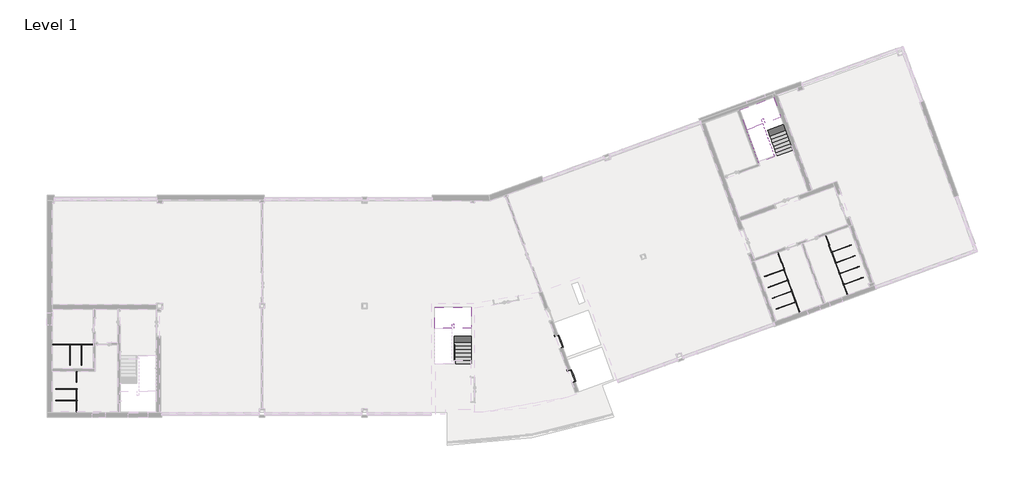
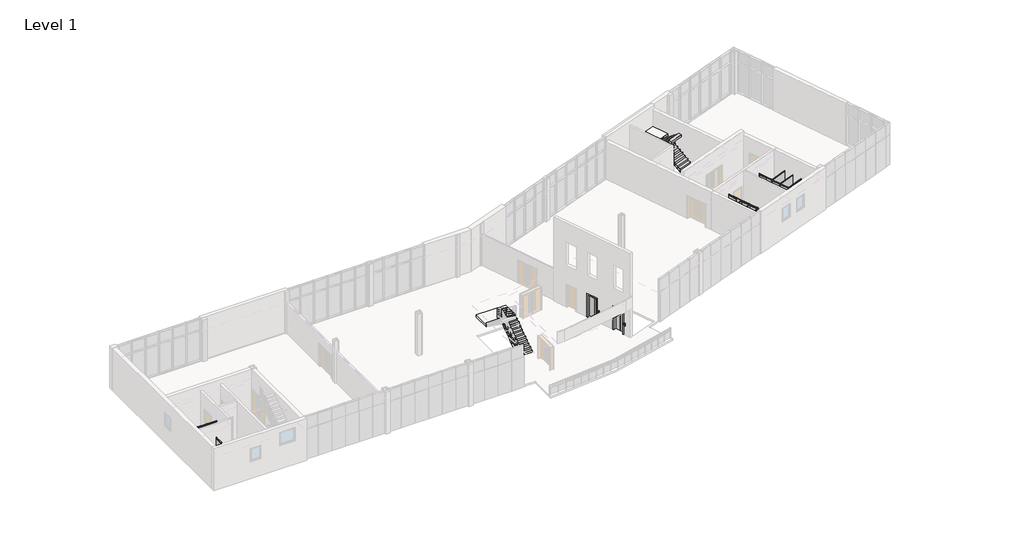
# One storey, part 12 of 12: 19 flow terminals, 3 stair flights, 2 proxies, 2 slabs.
"""IFC4 building model written with IfcOpenShell, lengths in millimetres."""

from ifc_helpers import new_model, si_unit, frame, origin, place, context, project, spatial, polyline, outline, extrude, faceted_brep, transform, mapped, element, save
from components import specialty_equipment_lift_assembly_13_person_wide_car_fb916a52, flow_terminal_2100mm_height_12b2e6eb, flow_terminal_2100mm_height_1f2eed72, flow_terminal_2100mm_height_0595ce71, flow_terminal_2100mm_height_2c32aa6e, flow_terminal_2100mm_height_6680c838, plumbing_fixtures_cubicle_corner_end_2100mm_height_8010d271, plumbing_fixtures_cubicle_corner_end_2100mm_height_71efdfa1

model = new_model("IFC4")

# Units and contexts
model_context = context("Model", 3, world=origin())
ifc_project = project(units=[si_unit("LENGTHUNIT", "METRE", prefix="MILLI")], contexts=[model_context])

# Site, building, storey
site = spatial("IfcSite", under=ifc_project)
building = spatial("IfcBuilding", under=site)
storey = spatial("IfcBuildingStorey", under=building, Name="Level 1", Elevation=3900.0)

# Proxies
placement = place(None, origin())
specialty_equipment_lift_assembly_13_person_wide_car_shape = specialty_equipment_lift_assembly_13_person_wide_car_fb916a52(model_context)
element("IfcBuildingElementProxy", 1, Name="Specialty_Equipment_Lift_Assembly : 13_Person-Wide_Car", ObjectType="Specialty_Equipment_Lift_Assembly : 13_Person-Wide_Car", at=placement, inside=storey, context=model_context, shape_type="MappedRepresentation", body=[
    mapped(specialty_equipment_lift_assembly_13_person_wide_car_shape, transform((36402.6729076, 5528.4769866, 3900.0), x_axis=(-0.34202014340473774, 0.9396926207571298, 0.0), y_axis=(-0.9396926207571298, -0.34202014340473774, 0.0), z_axis=(0.0, 0.0, 1.0))),
])
element("IfcBuildingElementProxy", 2, Name="Specialty_Equipment_Lift_Assembly : 13_Person-Wide_Car", ObjectType="Specialty_Equipment_Lift_Assembly : 13_Person-Wide_Car", at=placement, inside=storey, context=model_context, shape_type="MappedRepresentation", body=[
    mapped(specialty_equipment_lift_assembly_13_person_wide_car_shape, transform((37291.5468029, 3086.3160311, 3900.0), x_axis=(-0.34202014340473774, 0.9396926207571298, 0.0), y_axis=(-0.9396926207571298, -0.34202014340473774, 0.0), z_axis=(0.0, 0.0, 1.0))),
])

# Flow terminals
flow_terminal_2100mm_height_shape = flow_terminal_2100mm_height_12b2e6eb(model_context)
element("IfcFlowTerminal", 3, ObjectType="Plumbing_Fixtures_Toilet_Cubicle_End_Adjacent_Wall : 2100mm_Height", at=placement, inside=storey, context=model_context, shape_type="MappedRepresentation", body=[
    mapped(flow_terminal_2100mm_height_shape, transform((50541.393351, 10685.9180507, 3900.0), x_axis=(-0.3420201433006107, 0.9396926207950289, 0.0), y_axis=(-0.9396926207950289, -0.3420201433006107, 0.0), z_axis=(0.0, 0.0, 1.0))),
])
element("IfcFlowTerminal", 4, ObjectType="Plumbing_Fixtures_Toilet_Cubicle_End_Adjacent_Wall : 2100mm_Height", at=placement, inside=storey, context=model_context, shape_type="MappedRepresentation", body=[
    mapped(flow_terminal_2100mm_height_shape, transform((383.0, 2814.5689301, 3900.0), x_axis=(2.5442148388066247e-11, 1.0, 0.0), y_axis=(-1.0, 2.5442148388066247e-11, 0.0), z_axis=(0.0, 0.0, 1.0))),
])
element("IfcFlowTerminal", 5, ObjectType="Plumbing_Fixtures_Toilet_Cubicle_End_Adjacent_Wall : 2100mm_Height", at=placement, inside=storey, context=model_context, shape_type="MappedRepresentation", body=[
    mapped(flow_terminal_2100mm_height_shape, transform((830.9310712, 3326.5000005, 3900.0), x_axis=(-1.0, 2.5443536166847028e-11, 0.0), y_axis=(-2.5443536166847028e-11, -1.0, 0.0), z_axis=(0.0, 0.0, 1.0))),
])
flow_terminal_2100mm_height_2_shape = flow_terminal_2100mm_height_1f2eed72(model_context)
element("IfcFlowTerminal", 6, ObjectType="Plumbing_Fixtures_Toile_Cubicle_Extension_Panel : 2100mm_Height", at=placement, inside=storey, context=model_context, shape_type="MappedRepresentation", body=[
    mapped(flow_terminal_2100mm_height_2_shape, transform((50976.9218015, 9489.3134675, 3900.0), x_axis=(-0.34202014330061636, 0.9396926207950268, 0.0), y_axis=(-0.9396926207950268, -0.34202014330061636, 0.0), z_axis=(0.0, 0.0, 1.0))),
])
flow_terminal_2100mm_height_3_shape = flow_terminal_2100mm_height_0595ce71(model_context)
element("IfcFlowTerminal", 7, ObjectType="Plumbing_Fixtures_Toile_Cubicle_Extension_Panel : 2100mm_Height", at=placement, inside=storey, context=model_context, shape_type="MappedRepresentation", body=[
    mapped(flow_terminal_2100mm_height_3_shape, transform((57719.2163556, 11943.3079956, 3900.0), x_axis=(-0.3420201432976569, 0.9396926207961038, 0.0), y_axis=(-0.9396926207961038, -0.3420201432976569, 0.0), z_axis=(0.0, 0.0, 1.0))),
])
flow_terminal_2100mm_height_4_shape = flow_terminal_2100mm_height_2c32aa6e(model_context)
element("IfcFlowTerminal", 8, ObjectType="Plumbing_Fixtures_Toilet_Cubicle_End_Adjacent_Wall : 2100mm_Height", at=placement, inside=storey, context=model_context, shape_type="MappedRepresentation", body=[
    mapped(flow_terminal_2100mm_height_4_shape, transform((57283.6879051, 13139.9125789, 3900.0), x_axis=(-0.3420201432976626, 0.9396926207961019, 0.0), y_axis=(-0.9396926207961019, -0.3420201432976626, 0.0), z_axis=(0.0, 0.0, 1.0))),
])
flow_terminal_2100mm_height_5_shape = flow_terminal_2100mm_height_6680c838(model_context)
element("IfcFlowTerminal", 9, ObjectType="Plumbing_Fixtures_Toile_Cubicle_Extension_Panel : 2100mm_Height", at=placement, inside=storey, context=model_context, shape_type="MappedRepresentation", body=[
    mapped(flow_terminal_2100mm_height_5_shape, transform((2080.4310713, 3326.5000005, 3900.0), x_axis=(-1.0, 0.0, 0.0), y_axis=(0.0, -1.0, 0.0), z_axis=(0.0, 0.0, 1.0))),
])
plumbing_fixtures_cubicle_corner_end_2100mm_height_shape = plumbing_fixtures_cubicle_corner_end_2100mm_height_8010d271(model_context)
element("IfcFlowTerminal", 10, ObjectType="Plumbing_Fixtures_Cubicle_Corner_End : 2100mm_Height", at=placement, inside=storey, context=model_context, shape_type="MappedRepresentation", body=[
    mapped(plumbing_fixtures_cubicle_corner_end_2100mm_height_shape, transform((58572.2617435, 9599.5850544, 3900.0), x_axis=(0.3420201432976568, -0.9396926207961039, 0.0), y_axis=(0.9396926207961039, 0.3420201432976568, 0.0), z_axis=(0.0, 0.0, 1.0))),
])
element("IfcFlowTerminal", 11, ObjectType="Plumbing_Fixtures_Cubicle_Corner_End : 2100mm_Height", at=placement, inside=storey, context=model_context, shape_type="MappedRepresentation", body=[
    mapped(plumbing_fixtures_cubicle_corner_end_2100mm_height_shape, transform((58291.805226, 10370.1330034, 3900.0), x_axis=(0.3420201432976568, -0.9396926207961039, 0.0), y_axis=(0.9396926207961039, 0.3420201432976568, 0.0), z_axis=(0.0, 0.0, 1.0))),
])
element("IfcFlowTerminal", 12, ObjectType="Plumbing_Fixtures_Cubicle_Corner_End : 2100mm_Height", at=placement, inside=storey, context=model_context, shape_type="MappedRepresentation", body=[
    mapped(plumbing_fixtures_cubicle_corner_end_2100mm_height_shape, transform((58011.3487085, 11140.6809525, 3900.0), x_axis=(0.3420201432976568, -0.9396926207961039, 0.0), y_axis=(0.9396926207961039, 0.3420201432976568, 0.0), z_axis=(0.0, 0.0, 1.0))),
])
element("IfcFlowTerminal", 13, ObjectType="Plumbing_Fixtures_Cubicle_Corner_End : 2100mm_Height", at=placement, inside=storey, context=model_context, shape_type="MappedRepresentation", body=[
    mapped(plumbing_fixtures_cubicle_corner_end_2100mm_height_shape, transform((57730.892191, 11911.2289015, 3900.0), x_axis=(0.3420201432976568, -0.9396926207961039, 0.0), y_axis=(0.9396926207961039, 0.3420201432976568, 0.0), z_axis=(0.0, 0.0, 1.0))),
])
plumbing_fixtures_cubicle_corner_end_2100mm_height_2_shape = plumbing_fixtures_cubicle_corner_end_2100mm_height_71efdfa1(model_context)
element("IfcFlowTerminal", 14, ObjectType="Plumbing_Fixtures_Cubicle_Corner_End : 2100mm_Height", at=placement, inside=storey, context=model_context, shape_type="MappedRepresentation", body=[
    mapped(plumbing_fixtures_cubicle_corner_end_2100mm_height_2_shape, transform((51829.9671894, 7145.5905262, 3900.0), x_axis=(0.3420201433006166, -0.9396926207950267, 0.0), y_axis=(0.9396926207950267, 0.3420201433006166, 0.0), z_axis=(0.0, 0.0, 1.0))),
])
element("IfcFlowTerminal", 15, ObjectType="Plumbing_Fixtures_Cubicle_Corner_End : 2100mm_Height", at=placement, inside=storey, context=model_context, shape_type="MappedRepresentation", body=[
    mapped(plumbing_fixtures_cubicle_corner_end_2100mm_height_2_shape, transform((51549.5106719, 7916.1384753, 3900.0), x_axis=(0.3420201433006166, -0.9396926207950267, 0.0), y_axis=(0.9396926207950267, 0.3420201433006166, 0.0), z_axis=(0.0, 0.0, 1.0))),
])
element("IfcFlowTerminal", 16, ObjectType="Plumbing_Fixtures_Cubicle_Corner_End : 2100mm_Height", at=placement, inside=storey, context=model_context, shape_type="MappedRepresentation", body=[
    mapped(plumbing_fixtures_cubicle_corner_end_2100mm_height_2_shape, transform((51269.0541544, 8686.6864243, 3900.0), x_axis=(0.3420201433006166, -0.9396926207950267, 0.0), y_axis=(0.9396926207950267, 0.3420201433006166, 0.0), z_axis=(0.0, 0.0, 1.0))),
])
element("IfcFlowTerminal", 17, ObjectType="Plumbing_Fixtures_Cubicle_Corner_End : 2100mm_Height", at=placement, inside=storey, context=model_context, shape_type="MappedRepresentation", body=[
    mapped(plumbing_fixtures_cubicle_corner_end_2100mm_height_2_shape, transform((50988.5976369, 9457.2343734, 3900.0), x_axis=(0.3420201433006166, -0.9396926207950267, 0.0), y_axis=(0.9396926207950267, 0.3420201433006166, 0.0), z_axis=(0.0, 0.0, 1.0))),
])
element("IfcFlowTerminal", 18, ObjectType="Plumbing_Fixtures_Cubicle_Corner_End : 2100mm_Height", at=placement, inside=storey, context=model_context, shape_type="MappedRepresentation", body=[
    mapped(plumbing_fixtures_cubicle_corner_end_2100mm_height_2_shape, transform((383.0, 710.9310711, 3900.0), x_axis=(-2.5442148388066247e-11, -1.0, 0.0), y_axis=(1.0, -2.5442148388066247e-11, 0.0), z_axis=(0.0, 0.0, 1.0))),
])
element("IfcFlowTerminal", 19, ObjectType="Plumbing_Fixtures_Cubicle_Corner_End : 2100mm_Height", at=placement, inside=storey, context=model_context, shape_type="MappedRepresentation", body=[
    mapped(plumbing_fixtures_cubicle_corner_end_2100mm_height_2_shape, transform((383.0, 1530.9310711, 3900.0), x_axis=(-2.5442148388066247e-11, -1.0, 0.0), y_axis=(1.0, -2.5442148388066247e-11, 0.0), z_axis=(0.0, 0.0, 1.0))),
])
element("IfcFlowTerminal", 20, ObjectType="Plumbing_Fixtures_Cubicle_Corner_End : 2100mm_Height", at=placement, inside=storey, context=model_context, shape_type="MappedRepresentation", body=[
    mapped(plumbing_fixtures_cubicle_corner_end_2100mm_height_2_shape, transform((2934.5689301, 3326.5000005, 3900.0), x_axis=(1.0, -2.5443536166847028e-11, 0.0), y_axis=(2.5443536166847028e-11, 1.0, 0.0), z_axis=(0.0, 0.0, 1.0))),
])
element("IfcFlowTerminal", 21, ObjectType="Plumbing_Fixtures_Cubicle_Corner_End : 2100mm_Height", at=placement, inside=storey, context=model_context, shape_type="MappedRepresentation", body=[
    mapped(plumbing_fixtures_cubicle_corner_end_2100mm_height_2_shape, transform((2114.5689301, 3326.5000005, 3900.0), x_axis=(1.0, -2.5443536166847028e-11, 0.0), y_axis=(2.5443536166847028e-11, 1.0, 0.0), z_axis=(0.0, 0.0, 1.0))),
])

# Slabs
element("IfcSlab", 22, ObjectType="8\"_Thickness", at=placement, inside=storey, context=model_context, shape_type="SolidModel", body=[
    faceted_brep([(29052.2000029, 6263.2000006, 5849.0), (30252.200003, 6263.2000006, 5849.0), (30252.200003, 6490.4719159, 5849.0), (30252.200003, 7763.2000004, 5849.0), (27662.2000031, 7763.2000004, 5849.0), (27662.2000031, 6285.9280852, 5849.0), (27662.2000031, 6263.2000006, 5849.0), (28862.2000029, 6263.2000006, 5849.0), (28862.2000029, 6285.9280852, 5849.0), (28862.2000029, 6563.2000006, 5849.0), (29052.2000029, 6563.2000006, 5849.0), (29052.2000029, 6490.4719159, 5849.0), (29052.2000029, 6263.2000006, 5487.8435509), (29052.2000029, 6263.2000006, 5671.7272727), (29052.2000029, 6563.2000006, 5649.0), (29052.2000029, 6490.4719159, 5649.0), (30252.200003, 6263.2000006, 5671.7272727), (30252.200003, 6263.2000006, 5487.8435509), (30252.200003, 6490.4719159, 5649.0), (30252.200003, 7763.2000004, 5649.0), (28862.2000029, 6263.2000006, 5665.1162782), (28862.2000029, 6285.9280852, 5649.0), (28862.2000029, 6563.2000006, 5649.0), (27662.2000031, 6285.9280852, 5649.0), (27662.2000031, 7763.2000004, 5649.0), (27662.2000031, 6263.2000006, 5665.1162782)], [[[0, 1, 2, 3, 4, 5, 6, 7, 8, 9, 10, 11]], [[12, 13, 0, 11, 10, 14, 15]], [[1, 16, 17, 18, 19, 3, 2]], [[7, 20, 21, 22, 9, 8]], [[18, 15, 14, 22, 21, 23, 24, 19]], [[15, 18, 17, 12]], [[23, 21, 20, 25]], [[1, 0, 13, 12, 17, 16]], [[4, 3, 19, 24]], [[4, 24, 23, 25, 6, 5]], [[7, 6, 25, 20]], [[10, 9, 22, 14]]]),
    extrude(outline(polyline([(29052.2000029, 6263.2000006), (29052.2000029, 6563.2000006), (28862.2000029, 6563.2000006), (28862.2000029, 6263.2000006), (27662.2000031, 6263.2000006), (27662.2000031, 7763.2000004), (30252.200003, 7763.2000004), (30252.200003, 6263.2000006), (29052.2000029, 6263.2000006)])), frame((0.0, 0.0, 5849.0), z_axis=(0.0, 0.0, 1.0), x_axis=(1.0, 0.0, 0.0)), (0.0, 0.0, 1.0), 1.0),
])
element("IfcSlab", 23, ObjectType="8\"_Thickness", at=placement, inside=storey, context=model_context, shape_type="SolidModel", body=[
    faceted_brep([(51174.021156, 20890.1085605, 5849.0), (52301.652301, 21300.5327324, 5849.0), (52223.920728, 21514.0984742, 5849.0), (51788.6220861, 22710.0716635, 5849.0), (49354.8181983, 21824.2394924, 5849.0), (49860.0749505, 20436.0579748, 5849.0), (49867.8484132, 20414.7005613, 5849.0), (50995.479558, 20825.1247332, 5849.0), (50987.7060952, 20846.4821467, 5849.0), (50892.873515, 21107.0325195, 5849.0), (51071.415113, 21172.0163467, 5849.0), (51096.2895829, 21103.6743022, 5849.0), (51174.021156, 20890.1085605, 5487.8435509), (51174.021156, 20890.1085605, 5671.7272727), (51071.415113, 21172.0163467, 5649.0), (51096.2895829, 21103.6743022, 5649.0), (52301.652301, 21300.5327324, 5671.7272727), (52301.652301, 21300.5327324, 5487.8435509), (52223.920728, 21514.0984742, 5649.0), (51788.6220861, 22710.0716635, 5649.0), (50995.479558, 20825.1247332, 5665.1162782), (50987.7060952, 20846.4821467, 5649.0), (50892.873515, 21107.0325195, 5649.0), (49860.0749505, 20436.0579748, 5649.0), (49354.8181983, 21824.2394924, 5649.0), (49867.8484132, 20414.7005613, 5665.1162782)], [[[0, 1, 2, 3, 4, 5, 6, 7, 8, 9, 10, 11]], [[12, 13, 0, 11, 10, 14, 15]], [[1, 16, 17, 18, 19, 3, 2]], [[7, 20, 21, 22, 9, 8]], [[18, 15, 14, 22, 21, 23, 24, 19]], [[15, 18, 17, 12]], [[23, 21, 20, 25]], [[1, 0, 13, 12, 17, 16]], [[4, 3, 19, 24]], [[4, 24, 23, 25, 6, 5]], [[7, 6, 25, 20]], [[10, 9, 22, 14]]]),
    extrude(outline(polyline([(51174.021156, 20890.1085605), (51071.415113, 21172.0163467), (50892.873515, 21107.0325195), (50995.479558, 20825.1247332), (49867.8484132, 20414.7005613), (49354.8181983, 21824.2394924), (51788.6220861, 22710.0716635), (52301.652301, 21300.5327324), (51174.021156, 20890.1085605)])), frame((0.0, 0.0, 5849.0), z_axis=(0.0, 0.0, 1.0), x_axis=(1.0, 0.0, 0.0)), (0.0, 0.0, 1.0), 1.0),
])

# Stair flights
element("IfcStairFlight", 24, ObjectType="1/16\"_Tread-6\"_Depth", at=placement, inside=storey, context=model_context, shape_type="SolidModel", body=[
    faceted_brep([(29052.2000029, 4013.2000006, 4076.2727273), (29052.2000029, 3763.2000006, 4076.2727273), (30252.200003, 3763.2000006, 4076.2727273), (30252.200003, 4013.2000006, 4076.2727273), (29052.2000029, 4013.2000006, 3900.0), (29052.2000029, 3763.2000006, 3900.0), (30252.200003, 3763.2000006, 3900.0), (30252.200003, 4013.2000006, 3900.0), (29052.2000029, 4263.2000006, 4253.5454545), (29052.2000029, 4013.2000006, 4253.5454545), (30252.200003, 4013.2000006, 4253.5454545), (30252.200003, 4263.2000006, 4253.5454545), (29052.2000029, 4263.2000006, 4069.6617328), (29052.2000029, 4023.9334544, 3900.0), (30252.200003, 4023.9334544, 3900.0), (30252.200003, 4263.2000006, 4069.6617328), (29052.2000029, 4513.2000006, 4430.8181818), (29052.2000029, 4263.2000006, 4430.8181818), (30252.200003, 4263.2000006, 4430.8181818), (30252.200003, 4513.2000006, 4430.8181818), (29052.2000029, 4513.2000006, 4246.93446), (30252.200003, 4513.2000006, 4246.93446), (29052.2000029, 4763.2000006, 4608.0909091), (29052.2000029, 4513.2000006, 4608.0909091), (30252.200003, 4513.2000006, 4608.0909091), (30252.200003, 4763.2000006, 4608.0909091), (29052.2000029, 4763.2000006, 4424.2071873), (30252.200003, 4763.2000006, 4424.2071873), (29052.2000029, 5013.2000006, 4785.3636364), (29052.2000029, 4763.2000006, 4785.3636364), (30252.200003, 4763.2000006, 4785.3636364), (30252.200003, 5013.2000006, 4785.3636364), (29052.2000029, 5013.2000006, 4601.4799146), (30252.200003, 5013.2000006, 4601.4799146), (29052.2000029, 5263.2000006, 4962.6363636), (29052.2000029, 5013.2000006, 4962.6363636), (30252.200003, 5013.2000006, 4962.6363636), (30252.200003, 5263.2000006, 4962.6363636), (29052.2000029, 5263.2000006, 4778.7526418), (30252.200003, 5263.2000006, 4778.7526418), (29052.2000029, 5513.2000006, 5139.9090909), (29052.2000029, 5263.2000006, 5139.9090909), (30252.200003, 5263.2000006, 5139.9090909), (30252.200003, 5513.2000006, 5139.9090909), (29052.2000029, 5513.2000006, 4956.0253691), (30252.200003, 5513.2000006, 4956.0253691), (29052.2000029, 5763.2000006, 5317.1818182), (29052.2000029, 5513.2000006, 5317.1818182), (30252.200003, 5513.2000006, 5317.1818182), (30252.200003, 5763.2000006, 5317.1818182), (29052.2000029, 5763.2000006, 5133.2980964), (30252.200003, 5763.2000006, 5133.2980964), (29052.2000029, 6013.2000006, 5494.4545455), (29052.2000029, 5763.2000006, 5494.4545455), (30252.200003, 5763.2000006, 5494.4545455), (30252.200003, 6013.2000006, 5494.4545455), (29052.2000029, 6013.2000006, 5310.5708237), (30252.200003, 6013.2000006, 5310.5708237), (29052.2000029, 6263.2000006, 5487.8435509), (30252.200003, 6263.2000006, 5487.8435509), (29052.2000029, 6263.2000006, 5671.7272727), (29052.2000029, 6013.2000006, 5671.7272727), (30252.200003, 6013.2000006, 5671.7272727), (30252.200003, 6263.2000006, 5671.7272727)], [[[0, 1, 2, 3]], [[1, 0, 4, 5]], [[2, 1, 5, 6]], [[3, 2, 6, 7]], [[8, 9, 10, 11]], [[4, 0, 9, 8, 12, 13]], [[0, 3, 10, 9]], [[3, 7, 14, 15, 11, 10]], [[16, 17, 18, 19]], [[17, 16, 20, 12, 8]], [[8, 11, 18, 17]], [[19, 18, 11, 15, 21]], [[22, 23, 24, 25]], [[23, 22, 26, 20, 16]], [[16, 19, 24, 23]], [[25, 24, 19, 21, 27]], [[28, 29, 30, 31]], [[29, 28, 32, 26, 22]], [[22, 25, 30, 29]], [[31, 30, 25, 27, 33]], [[34, 35, 36, 37]], [[35, 34, 38, 32, 28]], [[28, 31, 36, 35]], [[37, 36, 31, 33, 39]], [[40, 41, 42, 43]], [[41, 40, 44, 38, 34]], [[34, 37, 42, 41]], [[43, 42, 37, 39, 45]], [[46, 47, 48, 49]], [[47, 46, 50, 44, 40]], [[40, 43, 48, 47]], [[49, 48, 43, 45, 51]], [[52, 53, 54, 55]], [[53, 52, 56, 50, 46]], [[46, 49, 54, 53]], [[55, 54, 49, 51, 57]], [[5, 4, 13, 14, 7, 6]], [[14, 13, 12, 20, 26, 32, 38, 44, 50, 56, 58, 59, 57, 51, 45, 39, 33, 27, 21, 15]], [[60, 61, 62, 63]], [[61, 60, 58, 56, 52]], [[52, 55, 62, 61]], [[63, 62, 55, 57, 59]], [[60, 63, 59, 58]]]),
    extrude(outline(polyline([(29052.2000029, 4013.2000006), (30252.200003, 4013.2000006), (30252.200003, 3763.2000006), (29052.2000029, 3763.2000006), (29052.2000029, 4013.2000006)])), frame((0.0, 0.0, 4076.2727273), z_axis=(0.0, 0.0, 1.0), x_axis=(1.0, 0.0, 0.0)), (0.0, 0.0, 1.0), 1.0),
    extrude(outline(polyline([(29052.2000029, 4263.2000006), (30252.200003, 4263.2000006), (30252.200003, 4013.2000006), (29052.2000029, 4013.2000006), (29052.2000029, 4263.2000006)])), frame((0.0, 0.0, 4253.5454545), z_axis=(0.0, 0.0, 1.0), x_axis=(1.0, 0.0, 0.0)), (0.0, 0.0, 1.0), 1.0),
    extrude(outline(polyline([(29052.2000029, 4513.2000006), (30252.200003, 4513.2000006), (30252.200003, 4263.2000006), (29052.2000029, 4263.2000006), (29052.2000029, 4513.2000006)])), frame((0.0, 0.0, 4430.8181818), z_axis=(0.0, 0.0, 1.0), x_axis=(1.0, 0.0, 0.0)), (0.0, 0.0, 1.0), 1.0),
    extrude(outline(polyline([(29052.2000029, 4763.2000006), (30252.200003, 4763.2000006), (30252.200003, 4513.2000006), (29052.2000029, 4513.2000006), (29052.2000029, 4763.2000006)])), frame((0.0, 0.0, 4608.0909091), z_axis=(0.0, 0.0, 1.0), x_axis=(1.0, 0.0, 0.0)), (0.0, 0.0, 1.0), 1.0),
    extrude(outline(polyline([(29052.2000029, 5013.2000006), (30252.200003, 5013.2000006), (30252.200003, 4763.2000006), (29052.2000029, 4763.2000006), (29052.2000029, 5013.2000006)])), frame((0.0, 0.0, 4785.3636364), z_axis=(0.0, 0.0, 1.0), x_axis=(1.0, 0.0, 0.0)), (0.0, 0.0, 1.0), 1.0),
    extrude(outline(polyline([(29052.2000029, 5263.2000006), (30252.200003, 5263.2000006), (30252.200003, 5013.2000006), (29052.2000029, 5013.2000006), (29052.2000029, 5263.2000006)])), frame((0.0, 0.0, 4962.6363636), z_axis=(0.0, 0.0, 1.0), x_axis=(1.0, 0.0, 0.0)), (0.0, 0.0, 1.0), 1.0),
    extrude(outline(polyline([(29052.2000029, 5513.2000006), (30252.200003, 5513.2000006), (30252.200003, 5263.2000006), (29052.2000029, 5263.2000006), (29052.2000029, 5513.2000006)])), frame((0.0, 0.0, 5139.9090909), z_axis=(0.0, 0.0, 1.0), x_axis=(1.0, 0.0, 0.0)), (0.0, 0.0, 1.0), 1.0),
    extrude(outline(polyline([(29052.2000029, 5763.2000006), (30252.200003, 5763.2000006), (30252.200003, 5513.2000006), (29052.2000029, 5513.2000006), (29052.2000029, 5763.2000006)])), frame((0.0, 0.0, 5317.1818182), z_axis=(0.0, 0.0, 1.0), x_axis=(1.0, 0.0, 0.0)), (0.0, 0.0, 1.0), 1.0),
    extrude(outline(polyline([(29052.2000029, 6013.2000006), (30252.200003, 6013.2000006), (30252.200003, 5763.2000006), (29052.2000029, 5763.2000006), (29052.2000029, 6013.2000006)])), frame((0.0, 0.0, 5494.4545455), z_axis=(0.0, 0.0, 1.0), x_axis=(1.0, 0.0, 0.0)), (0.0, 0.0, 1.0), 1.0),
    extrude(outline(polyline([(29052.2000029, 6263.2000006), (30252.200003, 6263.2000006), (30252.200003, 6013.2000006), (29052.2000029, 6013.2000006), (29052.2000029, 6263.2000006)])), frame((0.0, 0.0, 5671.7272727), z_axis=(0.0, 0.0, 1.0), x_axis=(1.0, 0.0, 0.0)), (0.0, 0.0, 1.0), 1.0),
])
element("IfcStairFlight", 25, ObjectType="1/16\"_Tread-6\"_Depth", at=placement, inside=storey, context=model_context, shape_type="SolidModel", body=[
    faceted_brep([(51943.5664784, 18775.8001637, 4076.2727273), (52029.0715142, 18540.8770085, 4076.2727273), (53156.7026593, 18951.3011804, 4076.2727273), (53071.1976234, 19186.2243356, 4076.2727273), (51943.5664784, 18775.8001637, 3900.0), (52029.0715142, 18540.8770085, 3900.0), (53156.7026593, 18951.3011804, 3900.0), (53071.1976234, 19186.2243356, 3900.0), (51858.0614426, 19010.7233189, 4253.5454545), (51943.5664784, 18775.8001637, 4253.5454545), (53071.1976234, 19186.2243356, 4253.5454545), (52985.6925876, 19421.1474908, 4253.5454545), (51858.0614426, 19010.7233189, 4069.6617328), (51939.895421, 18785.886311, 3900.0), (53067.526566, 19196.310483, 3900.0), (52985.6925876, 19421.1474908, 4069.6617328), (51772.5564067, 19245.6464741, 4430.8181818), (51858.0614426, 19010.7233189, 4430.8181818), (52985.6925876, 19421.1474908, 4430.8181818), (52900.1875518, 19656.070646, 4430.8181818), (51772.5564067, 19245.6464741, 4246.93446), (52900.1875518, 19656.070646, 4246.93446), (51687.0513709, 19480.5696293, 4608.0909091), (51772.5564067, 19245.6464741, 4608.0909091), (52900.1875518, 19656.070646, 4608.0909091), (52814.682516, 19890.9938012, 4608.0909091), (51687.0513709, 19480.5696293, 4424.2071873), (52814.682516, 19890.9938012, 4424.2071873), (51601.5463351, 19715.4927845, 4785.3636364), (51687.0513709, 19480.5696293, 4785.3636364), (52814.682516, 19890.9938012, 4785.3636364), (52729.1774801, 20125.9169564, 4785.3636364), (51601.5463351, 19715.4927845, 4601.4799146), (52729.1774801, 20125.9169564, 4601.4799146), (51516.0412993, 19950.4159397, 4962.6363636), (51601.5463351, 19715.4927845, 4962.6363636), (52729.1774801, 20125.9169564, 4962.6363636), (52643.6724443, 20360.8401116, 4962.6363636), (51516.0412993, 19950.4159397, 4778.7526418), (52643.6724443, 20360.8401116, 4778.7526418), (51430.5362634, 20185.3390949, 5139.9090909), (51516.0412993, 19950.4159397, 5139.9090909), (52643.6724443, 20360.8401116, 5139.9090909), (52558.1674085, 20595.7632668, 5139.9090909), (51430.5362634, 20185.3390949, 4956.0253691), (52558.1674085, 20595.7632668, 4956.0253691), (51345.0312276, 20420.2622501, 5317.1818182), (51430.5362634, 20185.3390949, 5317.1818182), (52558.1674085, 20595.7632668, 5317.1818182), (52472.6623727, 20830.686422, 5317.1818182), (51345.0312276, 20420.2622501, 5133.2980964), (52472.6623727, 20830.686422, 5133.2980964), (51259.5261918, 20655.1854053, 5494.4545455), (51345.0312276, 20420.2622501, 5494.4545455), (52472.6623727, 20830.686422, 5494.4545455), (52387.1573368, 21065.6095772, 5494.4545455), (51259.5261918, 20655.1854053, 5310.5708237), (52387.1573368, 21065.6095772, 5310.5708237), (51174.021156, 20890.1085605, 5487.8435509), (52301.652301, 21300.5327324, 5487.8435509), (51174.021156, 20890.1085605, 5671.7272727), (51259.5261918, 20655.1854053, 5671.7272727), (52387.1573368, 21065.6095772, 5671.7272727), (52301.652301, 21300.5327324, 5671.7272727)], [[[0, 1, 2, 3]], [[1, 0, 4, 5]], [[2, 1, 5, 6]], [[3, 2, 6, 7]], [[8, 9, 10, 11]], [[4, 0, 9, 8, 12, 13]], [[0, 3, 10, 9]], [[3, 7, 14, 15, 11, 10]], [[16, 17, 18, 19]], [[17, 16, 20, 12, 8]], [[8, 11, 18, 17]], [[19, 18, 11, 15, 21]], [[22, 23, 24, 25]], [[23, 22, 26, 20, 16]], [[16, 19, 24, 23]], [[25, 24, 19, 21, 27]], [[28, 29, 30, 31]], [[29, 28, 32, 26, 22]], [[22, 25, 30, 29]], [[31, 30, 25, 27, 33]], [[34, 35, 36, 37]], [[35, 34, 38, 32, 28]], [[28, 31, 36, 35]], [[37, 36, 31, 33, 39]], [[40, 41, 42, 43]], [[41, 40, 44, 38, 34]], [[34, 37, 42, 41]], [[43, 42, 37, 39, 45]], [[46, 47, 48, 49]], [[47, 46, 50, 44, 40]], [[40, 43, 48, 47]], [[49, 48, 43, 45, 51]], [[52, 53, 54, 55]], [[53, 52, 56, 50, 46]], [[46, 49, 54, 53]], [[55, 54, 49, 51, 57]], [[5, 4, 13, 14, 7, 6]], [[14, 13, 12, 20, 26, 32, 38, 44, 50, 56, 58, 59, 57, 51, 45, 39, 33, 27, 21, 15]], [[60, 61, 62, 63]], [[61, 60, 58, 56, 52]], [[52, 55, 62, 61]], [[63, 62, 55, 57, 59]], [[60, 63, 59, 58]]]),
    extrude(outline(polyline([(51943.5664784, 18775.8001637), (53071.1976234, 19186.2243356), (53156.7026593, 18951.3011804), (52029.0715142, 18540.8770085), (51943.5664784, 18775.8001637)])), frame((0.0, 0.0, 4076.2727273), z_axis=(0.0, 0.0, 1.0), x_axis=(1.0, 0.0, 0.0)), (0.0, 0.0, 1.0), 1.0),
    extrude(outline(polyline([(51858.0614426, 19010.7233189), (52985.6925876, 19421.1474908), (53071.1976234, 19186.2243356), (51943.5664784, 18775.8001637), (51858.0614426, 19010.7233189)])), frame((0.0, 0.0, 4253.5454545), z_axis=(0.0, 0.0, 1.0), x_axis=(1.0, 0.0, 0.0)), (0.0, 0.0, 1.0), 1.0),
    extrude(outline(polyline([(51772.5564067, 19245.6464741), (52900.1875518, 19656.070646), (52985.6925876, 19421.1474908), (51858.0614426, 19010.7233189), (51772.5564067, 19245.6464741)])), frame((0.0, 0.0, 4430.8181818), z_axis=(0.0, 0.0, 1.0), x_axis=(1.0, 0.0, 0.0)), (0.0, 0.0, 1.0), 1.0),
    extrude(outline(polyline([(51687.0513709, 19480.5696293), (52814.682516, 19890.9938012), (52900.1875518, 19656.070646), (51772.5564067, 19245.6464741), (51687.0513709, 19480.5696293)])), frame((0.0, 0.0, 4608.0909091), z_axis=(0.0, 0.0, 1.0), x_axis=(1.0, 0.0, 0.0)), (0.0, 0.0, 1.0), 1.0),
    extrude(outline(polyline([(51601.5463351, 19715.4927845), (52729.1774801, 20125.9169564), (52814.682516, 19890.9938012), (51687.0513709, 19480.5696293), (51601.5463351, 19715.4927845)])), frame((0.0, 0.0, 4785.3636364), z_axis=(0.0, 0.0, 1.0), x_axis=(1.0, 0.0, 0.0)), (0.0, 0.0, 1.0), 1.0),
    extrude(outline(polyline([(51516.0412993, 19950.4159397), (52643.6724443, 20360.8401116), (52729.1774801, 20125.9169564), (51601.5463351, 19715.4927845), (51516.0412993, 19950.4159397)])), frame((0.0, 0.0, 4962.6363636), z_axis=(0.0, 0.0, 1.0), x_axis=(1.0, 0.0, 0.0)), (0.0, 0.0, 1.0), 1.0),
    extrude(outline(polyline([(51430.5362634, 20185.3390949), (52558.1674085, 20595.7632668), (52643.6724443, 20360.8401116), (51516.0412993, 19950.4159397), (51430.5362634, 20185.3390949)])), frame((0.0, 0.0, 5139.9090909), z_axis=(0.0, 0.0, 1.0), x_axis=(1.0, 0.0, 0.0)), (0.0, 0.0, 1.0), 1.0),
    extrude(outline(polyline([(51345.0312276, 20420.2622501), (52472.6623727, 20830.686422), (52558.1674085, 20595.7632668), (51430.5362634, 20185.3390949), (51345.0312276, 20420.2622501)])), frame((0.0, 0.0, 5317.1818182), z_axis=(0.0, 0.0, 1.0), x_axis=(1.0, 0.0, 0.0)), (0.0, 0.0, 1.0), 1.0),
    extrude(outline(polyline([(51259.5261918, 20655.1854053), (52387.1573368, 21065.6095772), (52472.6623727, 20830.686422), (51345.0312276, 20420.2622501), (51259.5261918, 20655.1854053)])), frame((0.0, 0.0, 5494.4545455), z_axis=(0.0, 0.0, 1.0), x_axis=(1.0, 0.0, 0.0)), (0.0, 0.0, 1.0), 1.0),
    extrude(outline(polyline([(51174.021156, 20890.1085605), (52301.652301, 21300.5327324), (52387.1573368, 21065.6095772), (51259.5261918, 20655.1854053), (51174.021156, 20890.1085605)])), frame((0.0, 0.0, 5671.7272727), z_axis=(0.0, 0.0, 1.0), x_axis=(1.0, 0.0, 0.0)), (0.0, 0.0, 1.0), 1.0),
])
element("IfcStairFlight", 26, ObjectType="1/16\"_Tread-6\"_Depth", at=placement, inside=storey, context=model_context, shape_type="SolidModel", body=[
    faceted_brep([(51080.9845938, 20590.201578, 6026.2727273), (50995.479558, 20825.1247332, 6026.2727273), (49867.8484132, 20414.7005613, 6026.2727273), (49953.3534491, 20179.7774061, 6026.2727273), (51080.9845938, 20590.201578, 5842.3890055), (50995.479558, 20825.1247332, 5665.1162782), (50995.479558, 20825.1247332, 5849.0), (49867.8484132, 20414.7005613, 5665.1162782), (49867.8484132, 20414.7005613, 5849.0), (49953.3534491, 20179.7774061, 5842.3890055), (51166.4896296, 20355.2784228, 6203.5454545), (51080.9845938, 20590.201578, 6203.5454545), (49953.3534491, 20179.7774061, 6203.5454545), (50038.8584849, 19944.8542509, 6203.5454545), (51166.4896296, 20355.2784228, 6019.6617328), (50038.8584849, 19944.8542509, 6019.6617328), (51251.9946655, 20120.3552676, 6380.8181818), (51166.4896296, 20355.2784228, 6380.8181818), (50038.8584849, 19944.8542509, 6380.8181818), (50124.3635207, 19709.9310957, 6380.8181818), (51251.9946655, 20120.3552676, 6196.93446), (50124.3635207, 19709.9310957, 6196.93446), (51337.4997013, 19885.4321124, 6558.0909091), (51251.9946655, 20120.3552676, 6558.0909091), (50124.3635207, 19709.9310957, 6558.0909091), (50209.8685565, 19475.0079405, 6558.0909091), (51337.4997013, 19885.4321124, 6374.2071873), (50209.8685565, 19475.0079405, 6374.2071873), (51423.0047371, 19650.5089572, 6735.3636364), (51337.4997013, 19885.4321124, 6735.3636364), (50209.8685565, 19475.0079405, 6735.3636364), (50295.3735924, 19240.0847853, 6735.3636364), (51423.0047371, 19650.5089572, 6551.4799146), (50295.3735924, 19240.0847853, 6551.4799146), (51508.5097729, 19415.585802, 6912.6363636), (51423.0047371, 19650.5089572, 6912.6363636), (50295.3735924, 19240.0847853, 6912.6363636), (50380.8786282, 19005.1616301, 6912.6363636), (51508.5097729, 19415.585802, 6728.7526418), (50380.8786282, 19005.1616301, 6728.7526418), (51594.0148088, 19180.6626468, 7089.9090909), (51508.5097729, 19415.585802, 7089.9090909), (50380.8786282, 19005.1616301, 7089.9090909), (50466.383664, 18770.2384749, 7089.9090909), (51594.0148088, 19180.6626468, 6906.0253691), (50466.383664, 18770.2384749, 6906.0253691), (51679.5198446, 18945.7394916, 7267.1818182), (51594.0148088, 19180.6626468, 7267.1818182), (50466.383664, 18770.2384749, 7267.1818182), (50551.8886998, 18535.3153197, 7267.1818182), (51679.5198446, 18945.7394916, 7083.2980964), (50551.8886998, 18535.3153197, 7083.2980964), (51765.0248804, 18710.8163364, 7444.4545455), (51679.5198446, 18945.7394916, 7444.4545455), (50551.8886998, 18535.3153197, 7444.4545455), (50637.3937356, 18300.3921645, 7444.4545455), (51765.0248804, 18710.8163364, 7260.5708237), (50637.3937356, 18300.3921645, 7260.5708237), (51850.5299162, 18475.8931812, 7437.8435509), (50722.8987715, 18065.4690093, 7437.8435509), (51850.5299162, 18475.8931812, 7621.7272727), (51765.0248804, 18710.8163364, 7621.7272727), (50637.3937356, 18300.3921645, 7621.7272727), (50722.8987715, 18065.4690093, 7621.7272727)], [[[0, 1, 2, 3]], [[1, 0, 4, 5, 6]], [[2, 1, 6, 5, 7, 8]], [[3, 2, 8, 7, 9]], [[10, 11, 12, 13]], [[11, 10, 14, 4, 0]], [[12, 11, 0, 3]], [[13, 12, 3, 9, 15]], [[16, 17, 18, 19]], [[17, 16, 20, 14, 10]], [[18, 17, 10, 13]], [[19, 18, 13, 15, 21]], [[22, 23, 24, 25]], [[23, 22, 26, 20, 16]], [[24, 23, 16, 19]], [[25, 24, 19, 21, 27]], [[28, 29, 30, 31]], [[29, 28, 32, 26, 22]], [[30, 29, 22, 25]], [[31, 30, 25, 27, 33]], [[34, 35, 36, 37]], [[35, 34, 38, 32, 28]], [[36, 35, 28, 31]], [[37, 36, 31, 33, 39]], [[40, 41, 42, 43]], [[41, 40, 44, 38, 34]], [[42, 41, 34, 37]], [[43, 42, 37, 39, 45]], [[46, 47, 48, 49]], [[47, 46, 50, 44, 40]], [[48, 47, 40, 43]], [[49, 48, 43, 45, 51]], [[52, 53, 54, 55]], [[53, 52, 56, 50, 46]], [[54, 53, 46, 49]], [[55, 54, 49, 51, 57]], [[5, 4, 14, 20, 26, 32, 38, 44, 50, 56, 58, 59, 57, 51, 45, 39, 33, 27, 21, 15, 9, 7]], [[60, 61, 62, 63]], [[61, 60, 58, 56, 52]], [[62, 61, 52, 55]], [[63, 62, 55, 57, 59]], [[60, 63, 59, 58]]]),
    extrude(outline(polyline([(51080.9845938, 20590.201578), (49953.3534491, 20179.7774061), (49867.8484132, 20414.7005613), (50995.479558, 20825.1247332), (51080.9845938, 20590.201578)])), frame((0.0, 0.0, 6026.2727273), z_axis=(0.0, 0.0, 1.0), x_axis=(1.0, 0.0, 0.0)), (0.0, 0.0, 1.0), 1.0),
    extrude(outline(polyline([(51166.4896296, 20355.2784228), (50038.8584849, 19944.8542509), (49953.3534491, 20179.7774061), (51080.9845938, 20590.201578), (51166.4896296, 20355.2784228)])), frame((0.0, 0.0, 6203.5454545), z_axis=(0.0, 0.0, 1.0), x_axis=(1.0, 0.0, 0.0)), (0.0, 0.0, 1.0), 1.0),
    extrude(outline(polyline([(51251.9946655, 20120.3552676), (50124.3635207, 19709.9310957), (50038.8584849, 19944.8542509), (51166.4896296, 20355.2784228), (51251.9946655, 20120.3552676)])), frame((0.0, 0.0, 6380.8181818), z_axis=(0.0, 0.0, 1.0), x_axis=(1.0, 0.0, 0.0)), (0.0, 0.0, 1.0), 1.0),
    extrude(outline(polyline([(51337.4997013, 19885.4321124), (50209.8685565, 19475.0079405), (50124.3635207, 19709.9310957), (51251.9946655, 20120.3552676), (51337.4997013, 19885.4321124)])), frame((0.0, 0.0, 6558.0909091), z_axis=(0.0, 0.0, 1.0), x_axis=(1.0, 0.0, 0.0)), (0.0, 0.0, 1.0), 1.0),
    extrude(outline(polyline([(51423.0047371, 19650.5089572), (50295.3735924, 19240.0847853), (50209.8685565, 19475.0079405), (51337.4997013, 19885.4321124), (51423.0047371, 19650.5089572)])), frame((0.0, 0.0, 6735.3636364), z_axis=(0.0, 0.0, 1.0), x_axis=(1.0, 0.0, 0.0)), (0.0, 0.0, 1.0), 1.0),
    extrude(outline(polyline([(51508.5097729, 19415.585802), (50380.8786282, 19005.1616301), (50295.3735924, 19240.0847853), (51423.0047371, 19650.5089572), (51508.5097729, 19415.585802)])), frame((0.0, 0.0, 6912.6363636), z_axis=(0.0, 0.0, 1.0), x_axis=(1.0, 0.0, 0.0)), (0.0, 0.0, 1.0), 1.0),
    extrude(outline(polyline([(51594.0148088, 19180.6626468), (50466.383664, 18770.2384749), (50380.8786282, 19005.1616301), (51508.5097729, 19415.585802), (51594.0148088, 19180.6626468)])), frame((0.0, 0.0, 7089.9090909), z_axis=(0.0, 0.0, 1.0), x_axis=(1.0, 0.0, 0.0)), (0.0, 0.0, 1.0), 1.0),
    extrude(outline(polyline([(51679.5198446, 18945.7394916), (50551.8886998, 18535.3153197), (50466.383664, 18770.2384749), (51594.0148088, 19180.6626468), (51679.5198446, 18945.7394916)])), frame((0.0, 0.0, 7267.1818182), z_axis=(0.0, 0.0, 1.0), x_axis=(1.0, 0.0, 0.0)), (0.0, 0.0, 1.0), 1.0),
    extrude(outline(polyline([(51765.0248804, 18710.8163364), (50637.3937356, 18300.3921645), (50551.8886998, 18535.3153197), (51679.5198446, 18945.7394916), (51765.0248804, 18710.8163364)])), frame((0.0, 0.0, 7444.4545455), z_axis=(0.0, 0.0, 1.0), x_axis=(1.0, 0.0, 0.0)), (0.0, 0.0, 1.0), 1.0),
    extrude(outline(polyline([(51850.5299162, 18475.8931812), (50722.8987715, 18065.4690093), (50637.3937356, 18300.3921645), (51765.0248804, 18710.8163364), (51850.5299162, 18475.8931812)])), frame((0.0, 0.0, 7621.7272727), z_axis=(0.0, 0.0, 1.0), x_axis=(1.0, 0.0, 0.0)), (0.0, 0.0, 1.0), 1.0),
])

save(model, "model.ifc")
